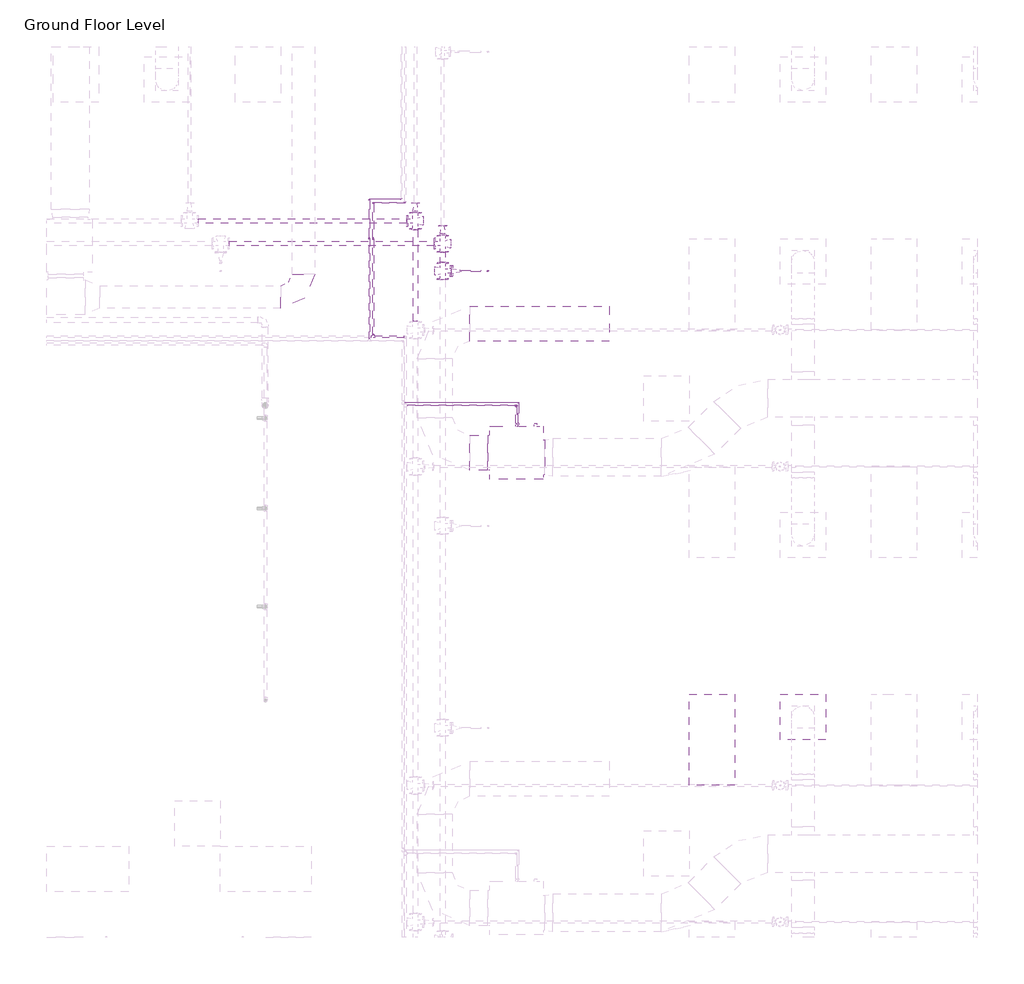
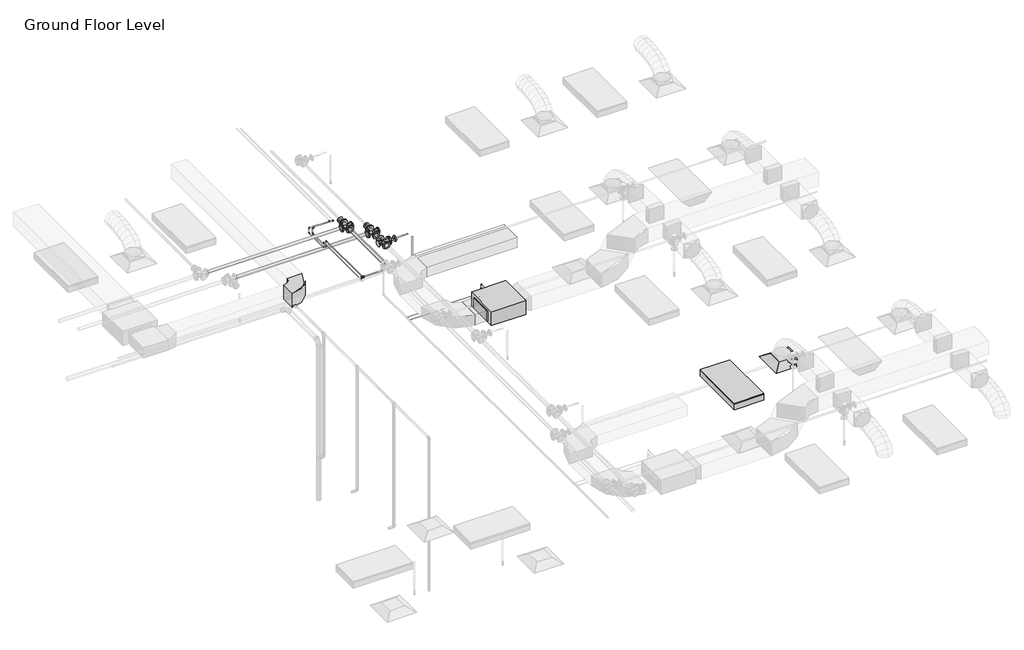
# One storey, part 67 of 74: 23 pipe segments, 22 pipe fittings, 2 duct segments, 1 air terminal, 1 duct fitting, 1 fire suppression terminal, 1 light fixture, 1 proxy.
"""IFC4 building model written with IfcOpenShell, lengths in millimetres."""

from ifc_helpers import new_model, si_unit, point, frame, frame_2d, origin, place, context, project, spatial, polyline, circle_curve, trimmed, segment, composite_curve, outline, extrude, transform, mapped, element, save
from components import m_return_diffuser_600_x_600_face_300_x_300_connection_ff221211, fcu_daikin_iu_bad131e0, m_rectangular_elbow_radius_1_w_618da153, m_sprinkler_pendent_15_mm_pendent_06fcbd8e, m_troffer_light_parabolic_rectangular1_0600x1200mm_4_lamp_86473d4a, m_elbow_generic_standard_a088f956, m_elbow_generic_standard_2a704253, m_reducer_flanged_cs_class_150_standard_9dfe9ec5, m_reducer_flanged_cs_class_150_standard_a7631c35, m_tee_generic_standard_bbfc025c, m_tee_round_base_flanged_cs_class_150_standard_dd767e04, m_transition_generic_standard_e9aec4dd

model = new_model("IFC4")

# Units and contexts
model_context = context("Model", 3, world=origin())
ifc_project = project(units=[si_unit("LENGTHUNIT", "METRE", prefix="MILLI")], contexts=[model_context])

# Site, building, storey
site = spatial("IfcSite", under=ifc_project)
building = spatial("IfcBuilding", under=site)
storey = spatial("IfcBuildingStorey", under=building, Name="Ground Floor Level", Elevation=900.0)

# Air terminal
placement = place(None, origin())
m_return_diffuser_600_x_600_face_300_x_300_connection_shape = m_return_diffuser_600_x_600_face_300_x_300_connection_ff221211(model_context)
element("IfcAirTerminal", 1, ObjectType="M_Supply Diffuser : 600 x 600 Face 300 x 300 Connection", at=placement, inside=storey, context=model_context, shape_type="MappedRepresentation", body=[
    mapped(m_return_diffuser_600_x_600_face_300_x_300_connection_shape, transform((10742.7672395, 8535.2153534, 3650.0), x_axis=(1.0, 0.0, 0.0), y_axis=(0.0, 1.0, 0.0), z_axis=(0.0, 0.0, 1.0))),
])

# Proxy
fcu_daikin_iu_shape = fcu_daikin_iu_bad131e0(model_context)
element("IfcBuildingElementProxy", 2, Name="FCU-DAIKIN IU : 4.5kW, 230V/50Hz/1Ph", ObjectType="FCU-DAIKIN IU : 4.5kW, 230V/50Hz/1Ph", at=placement, inside=storey, context=model_context, shape_type="MappedRepresentation", body=[
    mapped(fcu_daikin_iu_shape, transform((6968.8139492, 12019.6779527, 3934.0932729), x_axis=(0.0, 1.0, 0.0), y_axis=(-1.0, 0.0, 0.0), z_axis=(0.0, 0.0, 1.0))),
])

# Duct fitting
m_rectangular_elbow_radius_1_w_shape = m_rectangular_elbow_radius_1_w_618da153(model_context)
element("IfcDuctFitting", 3, ObjectType="M_Rectangular Elbow - Radius : 1 W", at=placement, inside=storey, context=model_context, shape_type="MappedRepresentation", body=[
    mapped(m_rectangular_elbow_radius_1_w_shape, transform((4162.7672395, 14069.8153534, 4075.2872564), x_axis=(1.0, 0.0, 0.0), y_axis=(0.0, 1.0, 0.0), z_axis=(0.0, 0.0, 1.0))),
])

# Duct segments
element("IfcDuctSegment", 4, ObjectType="Radius Elbows / Taps", at=placement, inside=storey, context=model_context, shape_type="SweptSolid", body=[
    extrude(outline(polyline([(6593.4139492, 12250.6154527), (6593.4139492, 11788.7404527), (6355.2889492, 11788.7404527), (6355.2889492, 12250.6154527), (6593.4139492, 12250.6154527)])), frame((0.0, 0.0, 3968.1432729), z_axis=(0.0, 0.0, 1.0), x_axis=(1.0, 0.0, 0.0)), (0.0, 0.0, 1.0), 214.3),
])
element("IfcDuctSegment", 5, ObjectType="Radius Elbows / Taps", at=placement, inside=storey, context=model_context, shape_type="SweptSolid", body=[
    extrude(outline(polyline([(6355.2889492, 13488.7408949), (6355.2889492, 13950.6158949), (8193.4139492, 13950.6158949), (8193.4139492, 13488.7408949), (6355.2889492, 13488.7408949)])), frame((0.0, 0.0, 3968.1432729), z_axis=(0.0, 0.0, 1.0), x_axis=(1.0, 0.0, 0.0)), (0.0, 0.0, 1.0), 214.3),
])

# Fire suppression terminal
m_sprinkler_pendent_15_mm_pendent_shape = m_sprinkler_pendent_15_mm_pendent_06fcbd8e(model_context)
element("IfcFireSuppressionTerminal", 6, ObjectType="M_Sprinkler - Pendent : 15 mm Pendent", at=placement, inside=storey, context=model_context, shape_type="MappedRepresentation", body=[
    mapped(m_sprinkler_pendent_15_mm_pendent_shape, transform((6592.5481019, 14412.7243649, 3650.0), x_axis=(1.0, 0.0, 0.0), y_axis=(0.0, 1.0, 0.0), z_axis=(0.0, 0.0, 1.0))),
])

# Light fixture
m_troffer_light_parabolic_rectangular1_0600x1200mm_4_lamp_shape = m_troffer_light_parabolic_rectangular1_0600x1200mm_4_lamp_86473d4a(model_context)
element("IfcLightFixture", 7, ObjectType="M_Troffer Light - Parabolic Rectangular1 : 0600x1200mm(4 Lamp) - 277V 2", at=placement, inside=storey, context=model_context, shape_type="MappedRepresentation", body=[
    mapped(m_troffer_light_parabolic_rectangular1_0600x1200mm_4_lamp_shape, transform((9483.3013074, 8253.9188549, 3650.0), x_axis=(0.0, 1.0, 0.0), y_axis=(-1.0, 0.0, 0.0), z_axis=(0.0, 0.0, 1.0))),
])

# Pipe fittings
m_elbow_generic_standard_shape = m_elbow_generic_standard_a088f956(model_context)
element("IfcPipeFitting", 8, ObjectType="M_Elbow - Generic : Standard", at=placement, inside=storey, context=model_context, shape_type="MappedRepresentation", body=[
    mapped(m_elbow_generic_standard_shape, transform((6968.8139492, 12641.4098545, 4034.0932729), x_axis=(0.0, 1.0, 0.0), y_axis=(0.0, 0.0, -1.0), z_axis=(-1.0, 0.0, 0.0))),
])
element("IfcPipeFitting", 9, ObjectType="M_Elbow - Generic : Standard", at=placement, inside=storey, context=model_context, shape_type="MappedRepresentation", body=[
    mapped(m_elbow_generic_standard_shape, transform((6968.8139492, 12641.4098545, 3851.8370709), x_axis=(0.0, 0.0, -1.0), y_axis=(-1.0, 0.0, 0.0), z_axis=(0.0, 1.0, 0.0))),
])
element("IfcPipeFitting", 10, ObjectType="M_Elbow - Generic : Standard", at=placement, inside=storey, context=model_context, shape_type="MappedRepresentation", body=[
    mapped(m_elbow_generic_standard_shape, transform((5079.6672395, 15310.9278534, 4380.0), x_axis=(-1.0, 0.0, 0.0), y_axis=(0.0, 0.0, -1.0), z_axis=(0.0, -1.0, 0.0))),
])
element("IfcPipeFitting", 11, ObjectType="M_Elbow - Generic : Standard", at=placement, inside=storey, context=model_context, shape_type="MappedRepresentation", body=[
    mapped(m_elbow_generic_standard_shape, transform((5079.6672395, 15310.9278534, 4250.0), x_axis=(0.0, 0.0, -1.0), y_axis=(0.0, -1.0, 0.0), z_axis=(-1.0, 0.0, 0.0))),
])
element("IfcPipeFitting", 12, ObjectType="M_Elbow - Generic : Standard", at=placement, inside=storey, context=model_context, shape_type="MappedRepresentation", body=[
    mapped(m_elbow_generic_standard_shape, transform((5079.6672395, 14839.2712401, 4250.0), x_axis=(0.0, -1.0, 0.0), y_axis=(0.0, 0.0, 1.0), z_axis=(-1.0, 0.0, 0.0))),
])
element("IfcPipeFitting", 13, ObjectType="M_Elbow - Generic : Standard", at=placement, inside=storey, context=model_context, shape_type="MappedRepresentation", body=[
    mapped(m_elbow_generic_standard_shape, transform((5079.6672395, 14839.2712401, 4380.0), x_axis=(0.0, 0.0, 1.0), y_axis=(0.0, -1.0, 0.0), z_axis=(1.0, 0.0, 0.0))),
])
element("IfcPipeFitting", 14, ObjectType="M_Elbow - Generic : Standard", at=placement, inside=storey, context=model_context, shape_type="MappedRepresentation", body=[
    mapped(m_elbow_generic_standard_shape, transform((5501.7675988, 15310.9278534, 4380.0), x_axis=(1.0, 0.0, 0.0), y_axis=(0.0, 1.0, 0.0), z_axis=(0.0, 0.0, 1.0))),
])
m_elbow_generic_standard_2_shape = m_elbow_generic_standard_2a704253(model_context)
element("IfcPipeFitting", 15, ObjectType="M_Elbow - Generic : Standard", at=placement, inside=storey, context=model_context, shape_type="MappedRepresentation", body=[
    mapped(m_elbow_generic_standard_2_shape, transform((5452.0810646, 15359.0778534, 4365.0), x_axis=(1.0, 0.0, 0.0), y_axis=(0.0, 1.0, 0.0), z_axis=(0.0, 0.0, 1.0))),
])
element("IfcPipeFitting", 16, ObjectType="M_Elbow - Generic : Standard", at=placement, inside=storey, context=model_context, shape_type="MappedRepresentation", body=[
    mapped(m_elbow_generic_standard_2_shape, transform((6993.8139492, 12681.5253374, 4084.8932729), x_axis=(0.0, 1.0, 0.0), y_axis=(0.0, 0.0, -1.0), z_axis=(-1.0, 0.0, 0.0))),
])
element("IfcPipeFitting", 17, ObjectType="M_Elbow - Generic : Standard", at=placement, inside=storey, context=model_context, shape_type="MappedRepresentation", body=[
    mapped(m_elbow_generic_standard_2_shape, transform((6993.8139492, 12681.5253374, 3894.9), x_axis=(0.0, 0.0, -1.0), y_axis=(-1.0, 0.0, 0.0), z_axis=(0.0, 1.0, 0.0))),
])
element("IfcPipeFitting", 18, ObjectType="M_Elbow - Generic : Standard", at=placement, inside=storey, context=model_context, shape_type="MappedRepresentation", body=[
    mapped(m_elbow_generic_standard_2_shape, transform((5029.9807053, 15359.0778534, 4365.0), x_axis=(-1.0, 0.0, 0.0), y_axis=(0.0, 0.0, -1.0), z_axis=(0.0, -1.0, 0.0))),
])
element("IfcPipeFitting", 19, ObjectType="M_Elbow - Generic : Standard", at=placement, inside=storey, context=model_context, shape_type="MappedRepresentation", body=[
    mapped(m_elbow_generic_standard_2_shape, transform((5029.9807053, 15359.0778534, 4250.0), x_axis=(0.0, 0.0, -1.0), y_axis=(0.0, -1.0, 0.0), z_axis=(-1.0, 0.0, 0.0))),
])
element("IfcPipeFitting", 20, ObjectType="M_Elbow - Generic : Standard", at=placement, inside=storey, context=model_context, shape_type="MappedRepresentation", body=[
    mapped(m_elbow_generic_standard_2_shape, transform((5029.9807053, 14842.4877441, 4250.0), x_axis=(0.0, -1.0, 0.0), y_axis=(0.0, 0.0, 1.0), z_axis=(-1.0, 0.0, 0.0))),
])
element("IfcPipeFitting", 21, ObjectType="M_Elbow - Generic : Standard", at=placement, inside=storey, context=model_context, shape_type="MappedRepresentation", body=[
    mapped(m_elbow_generic_standard_2_shape, transform((5029.9807053, 14842.4877441, 4365.0), x_axis=(0.0, 0.0, 1.0), y_axis=(0.0, -1.0, 0.0), z_axis=(1.0, 0.0, 0.0))),
])
m_reducer_flanged_cs_class_150_standard_shape = m_reducer_flanged_cs_class_150_standard_9dfe9ec5(model_context)
element("IfcPipeFitting", 22, ObjectType="M_Reducer - Flanged - CS - Class 150 : Standard", at=placement, inside=storey, context=model_context, shape_type="MappedRepresentation", body=[
    mapped(m_reducer_flanged_cs_class_150_standard_shape, transform((6111.057812, 14412.7243649, 4290.0), x_axis=(1.0, 0.0, 0.0), y_axis=(0.0, 0.0, -1.0), z_axis=(0.0, 1.0, 0.0))),
])
m_reducer_flanged_cs_class_150_standard_2_shape = m_reducer_flanged_cs_class_150_standard_a7631c35(model_context)
element("IfcPipeFitting", 23, ObjectType="M_Reducer - Flanged - CS - Class 150 : Standard", at=placement, inside=storey, context=model_context, shape_type="MappedRepresentation", body=[
    mapped(m_reducer_flanged_cs_class_150_standard_2_shape, transform((5997.057812, 14887.4681847, 4290.0), x_axis=(0.0, 1.0, 0.0), y_axis=(-1.0, 0.0, 0.0), z_axis=(0.0, 0.0, 1.0))),
])
element("IfcPipeFitting", 24, ObjectType="M_Reducer - Flanged - CS - Class 150 : Standard", at=placement, inside=storey, context=model_context, shape_type="MappedRepresentation", body=[
    mapped(m_reducer_flanged_cs_class_150_standard_2_shape, transform((5635.869498, 15187.2009828, 4360.0), x_axis=(0.0, 1.0, 0.0), y_axis=(-1.0, 0.0, 0.0), z_axis=(0.0, 0.0, 1.0))),
])
m_tee_generic_standard_shape = m_tee_generic_standard_bbfc025c(model_context)
element("IfcPipeFitting", 25, ObjectType="M_Tee - Generic : Standard", at=placement, inside=storey, context=model_context, shape_type="MappedRepresentation", body=[
    mapped(m_tee_generic_standard_shape, transform((5079.6672395, 13545.2153534, 4380.0), x_axis=(-1.0, 0.0, 0.0), y_axis=(0.0, -1.0, 0.0), z_axis=(0.0, 0.0, 1.0))),
])
m_tee_round_base_flanged_cs_class_150_standard_shape = m_tee_round_base_flanged_cs_class_150_standard_dd767e04(model_context)
element("IfcPipeFitting", 26, ObjectType="M_Tee Round Base - Flanged - CS - Class 150 : Standard", at=placement, inside=storey, context=model_context, shape_type="MappedRepresentation", body=[
    mapped(m_tee_round_base_flanged_cs_class_150_standard_shape, transform((5997.057812, 14773.4681847, 4290.0), x_axis=(0.0, -1.0, 0.0), y_axis=(1.0, 0.0, 0.0), z_axis=(0.0, 0.0, 1.0))),
])
element("IfcPipeFitting", 27, ObjectType="M_Tee Round Base - Flanged - CS - Class 150 : Standard", at=placement, inside=storey, context=model_context, shape_type="MappedRepresentation", body=[
    mapped(m_tee_round_base_flanged_cs_class_150_standard_shape, transform((5997.057812, 14412.7243649, 4290.0), x_axis=(0.0, 1.0, 0.0), y_axis=(-1.0, 0.0, 0.0), z_axis=(0.0, 0.0, 1.0))),
])
element("IfcPipeFitting", 28, ObjectType="M_Tee Round Base - Flanged - CS - Class 150 : Standard", at=placement, inside=storey, context=model_context, shape_type="MappedRepresentation", body=[
    mapped(m_tee_round_base_flanged_cs_class_150_standard_shape, transform((5635.869498, 15073.2009828, 4360.0), x_axis=(0.0, -1.0, 0.0), y_axis=(1.0, 0.0, 0.0), z_axis=(0.0, 0.0, 1.0))),
])
m_transition_generic_standard_shape = m_transition_generic_standard_e9aec4dd(model_context)
element("IfcPipeFitting", 29, ObjectType="M_Transition - Generic : Standard", at=placement, inside=storey, context=model_context, shape_type="MappedRepresentation", body=[
    mapped(m_transition_generic_standard_shape, transform((5079.6672395, 13570.6153534, 4380.0), x_axis=(0.0, 1.0, 0.0), y_axis=(-1.0, 0.0, 0.0), z_axis=(0.0, 0.0, 1.0))),
])

# Pipe segments
element("IfcPipeSegment", 30, ObjectType="Copper", at=placement, inside=storey, context=model_context, shape_type="SweptSolid", body=[
    extrude(outline(composite_curve([segment(trimmed(circle_curve(frame_2d((15359.0778534, 4365.0)), 3.35), [point((15355.7278534, 4365.0))], [point((15359.0778534, 4368.35))], False, "CARTESIAN"), True, "CONTINUOUS"), segment(trimmed(circle_curve(frame_2d((15359.0778534, 4365.0)), 3.35), [point((15359.0778534, 4368.35))], [point((15362.4278534, 4365.0))], False, "CARTESIAN"), True, "CONTINUOUS"), segment(trimmed(circle_curve(frame_2d((15359.0778534, 4365.0)), 3.35), [point((15362.4278534, 4365.0))], [point((15359.0778534, 4361.65))], False, "CARTESIAN"), True, "CONTINUOUS"), segment(trimmed(circle_curve(frame_2d((15359.0778534, 4365.0)), 3.35), [point((15359.0778534, 4361.65))], [point((15355.7278534, 4365.0))], False, "CARTESIAN"), True, "CONTINUOUS")], self_intersect=False)), frame((5041.1182053, 0.0, 0.0), z_axis=(1.0, 0.0, 0.0), x_axis=(0.0, 1.0, 0.0)), (0.0, 0.0, 1.0), 399.8253593),
])
element("IfcPipeSegment", 31, ObjectType="Copper", at=placement, inside=storey, context=model_context, shape_type="SweptSolid", body=[
    extrude(outline(composite_curve([segment(trimmed(circle_curve(frame_2d((15310.9278534, 4380.0)), 6.5), [point((15304.4278534, 4380.0))], [point((15310.9278534, 4386.5))], False, "CARTESIAN"), True, "CONTINUOUS"), segment(trimmed(circle_curve(frame_2d((15310.9278534, 4380.0)), 6.5), [point((15310.9278534, 4386.5))], [point((15317.4278534, 4380.0))], False, "CARTESIAN"), True, "CONTINUOUS"), segment(trimmed(circle_curve(frame_2d((15310.9278534, 4380.0)), 6.5), [point((15317.4278534, 4380.0))], [point((15310.9278534, 4373.5))], False, "CARTESIAN"), True, "CONTINUOUS"), segment(trimmed(circle_curve(frame_2d((15310.9278534, 4380.0)), 6.5), [point((15310.9278534, 4373.5))], [point((15304.4278534, 4380.0))], False, "CARTESIAN"), True, "CONTINUOUS")], self_intersect=False)), frame((5093.9547395, 0.0, 0.0), z_axis=(1.0, 0.0, 0.0), x_axis=(0.0, 1.0, 0.0)), (0.0, 0.0, 1.0), 393.5253593),
])
element("IfcPipeSegment", 32, ObjectType="Copper", at=placement, inside=storey, context=model_context, shape_type="SweptSolid", body=[
    extrude(outline(composite_curve([segment(trimmed(circle_curve(frame_2d((12681.5253374, 3894.9)), 3.35), [point((12684.8753374, 3894.9))], [point((12681.5253374, 3891.55))], False, "CARTESIAN"), True, "CONTINUOUS"), segment(trimmed(circle_curve(frame_2d((12681.5253374, 3894.9)), 3.35), [point((12681.5253374, 3891.55))], [point((12678.1753374, 3894.9))], False, "CARTESIAN"), True, "CONTINUOUS"), segment(trimmed(circle_curve(frame_2d((12681.5253374, 3894.9)), 3.35), [point((12678.1753374, 3894.9))], [point((12681.5253374, 3898.25))], False, "CARTESIAN"), True, "CONTINUOUS"), segment(trimmed(circle_curve(frame_2d((12681.5253374, 3894.9)), 3.35), [point((12681.5253374, 3898.25))], [point((12684.8753374, 3894.9))], False, "CARTESIAN"), True, "CONTINUOUS")], self_intersect=False)), frame((5499.1932053, 0.0, 0.0), z_axis=(1.0, 0.0, 0.0), x_axis=(0.0, 1.0, 0.0)), (0.0, 0.0, 1.0), 1483.483244),
])
element("IfcPipeSegment", 33, ObjectType="Copper", at=placement, inside=storey, context=model_context, shape_type="SweptSolid", body=[
    extrude(outline(composite_curve([segment(trimmed(circle_curve(frame_2d((12641.4098545, 3851.8370709)), 6.5), [point((12647.9098545, 3851.8370709))], [point((12641.4098545, 3845.3370709))], False, "CARTESIAN"), True, "CONTINUOUS"), segment(trimmed(circle_curve(frame_2d((12641.4098545, 3851.8370709)), 6.5), [point((12641.4098545, 3845.3370709))], [point((12634.9098545, 3851.8370709))], False, "CARTESIAN"), True, "CONTINUOUS"), segment(trimmed(circle_curve(frame_2d((12641.4098545, 3851.8370709)), 6.5), [point((12634.9098545, 3851.8370709))], [point((12641.4098545, 3858.3370709))], False, "CARTESIAN"), True, "CONTINUOUS"), segment(trimmed(circle_curve(frame_2d((12641.4098545, 3851.8370709)), 6.5), [point((12641.4098545, 3858.3370709))], [point((12647.9098545, 3851.8370709))], False, "CARTESIAN"), True, "CONTINUOUS")], self_intersect=False)), frame((5536.8172395, 0.0, 0.0), z_axis=(1.0, 0.0, 0.0), x_axis=(0.0, 1.0, 0.0)), (0.0, 0.0, 1.0), 1417.7092098),
])
element("IfcPipeSegment", 34, ObjectType="Copper", at=placement, inside=storey, context=model_context, shape_type="SweptSolid", body=[
    extrude(outline(composite_curve([segment(trimmed(circle_curve(frame_2d((4034.0932729, 6968.8139492)), 6.5), [point((4034.0932729, 6975.3139492))], [point((4040.5932729, 6968.8139492))], False, "CARTESIAN"), True, "CONTINUOUS"), segment(trimmed(circle_curve(frame_2d((4034.0932729, 6968.8139492)), 6.5), [point((4040.5932729, 6968.8139492))], [point((4034.0932729, 6962.3139492))], False, "CARTESIAN"), True, "CONTINUOUS"), segment(trimmed(circle_curve(frame_2d((4034.0932729, 6968.8139492)), 6.5), [point((4034.0932729, 6962.3139492))], [point((4027.5932729, 6968.8139492))], False, "CARTESIAN"), True, "CONTINUOUS"), segment(trimmed(circle_curve(frame_2d((4034.0932729, 6968.8139492)), 6.5), [point((4027.5932729, 6968.8139492))], [point((4034.0932729, 6975.3139492))], False, "CARTESIAN"), True, "CONTINUOUS")], self_intersect=False)), frame((0.0, 12407.7779527, 0.0), z_axis=(0.0, 1.0, 0.0), x_axis=(0.0, 0.0, 1.0)), (0.0, 0.0, 1.0), 219.3444019),
])
element("IfcPipeSegment", 35, ObjectType="Copper", at=placement, inside=storey, context=model_context, shape_type="SweptSolid", body=[
    extrude(outline(composite_curve([segment(trimmed(circle_curve(frame_2d((4084.8932729, 6993.8139492)), 3.35), [point((4084.8932729, 6997.1639492))], [point((4088.2432729, 6993.8139492))], False, "CARTESIAN"), True, "CONTINUOUS"), segment(trimmed(circle_curve(frame_2d((4084.8932729, 6993.8139492)), 3.35), [point((4088.2432729, 6993.8139492))], [point((4084.8932729, 6990.4639492))], False, "CARTESIAN"), True, "CONTINUOUS"), segment(trimmed(circle_curve(frame_2d((4084.8932729, 6993.8139492)), 3.35), [point((4084.8932729, 6990.4639492))], [point((4081.5432729, 6993.8139492))], False, "CARTESIAN"), True, "CONTINUOUS"), segment(trimmed(circle_curve(frame_2d((4084.8932729, 6993.8139492)), 3.35), [point((4081.5432729, 6993.8139492))], [point((4084.8932729, 6997.1639492))], False, "CARTESIAN"), True, "CONTINUOUS")], self_intersect=False)), frame((0.0, 12407.7779527, 0.0), z_axis=(0.0, 1.0, 0.0), x_axis=(0.0, 0.0, 1.0)), (0.0, 0.0, 1.0), 262.6098848),
])
element("IfcPipeSegment", 36, ObjectType="Copper", at=placement, inside=storey, context=model_context, shape_type="SweptSolid", body=[
    extrude(outline(composite_curve([segment(trimmed(circle_curve(frame_2d((6968.8139492, 12641.4098545)), 6.5), [point((6975.3139492, 12641.4098545))], [point((6968.8139492, 12634.9098545))], False, "CARTESIAN"), True, "CONTINUOUS"), segment(trimmed(circle_curve(frame_2d((6968.8139492, 12641.4098545)), 6.5), [point((6968.8139492, 12634.9098545))], [point((6962.3139492, 12641.4098545))], False, "CARTESIAN"), True, "CONTINUOUS"), segment(trimmed(circle_curve(frame_2d((6968.8139492, 12641.4098545)), 6.5), [point((6962.3139492, 12641.4098545))], [point((6968.8139492, 12647.9098545))], False, "CARTESIAN"), True, "CONTINUOUS"), segment(trimmed(circle_curve(frame_2d((6968.8139492, 12641.4098545)), 6.5), [point((6968.8139492, 12647.9098545))], [point((6975.3139492, 12641.4098545))], False, "CARTESIAN"), True, "CONTINUOUS")], self_intersect=False)), frame((0.0, 0.0, 3866.1245709), z_axis=(0.0, 0.0, 1.0), x_axis=(1.0, 0.0, 0.0)), (0.0, 0.0, 1.0), 153.6812021),
])
element("IfcPipeSegment", 37, ObjectType="Copper", at=placement, inside=storey, context=model_context, shape_type="SweptSolid", body=[
    extrude(outline(composite_curve([segment(trimmed(circle_curve(frame_2d((6993.8139492, 12681.5253374)), 3.35), [point((6997.1639492, 12681.5253374))], [point((6993.8139492, 12678.1753374))], False, "CARTESIAN"), True, "CONTINUOUS"), segment(trimmed(circle_curve(frame_2d((6993.8139492, 12681.5253374)), 3.35), [point((6993.8139492, 12678.1753374))], [point((6990.4639492, 12681.5253374))], False, "CARTESIAN"), True, "CONTINUOUS"), segment(trimmed(circle_curve(frame_2d((6993.8139492, 12681.5253374)), 3.35), [point((6990.4639492, 12681.5253374))], [point((6993.8139492, 12684.8753374))], False, "CARTESIAN"), True, "CONTINUOUS"), segment(trimmed(circle_curve(frame_2d((6993.8139492, 12681.5253374)), 3.35), [point((6993.8139492, 12684.8753374))], [point((6997.1639492, 12681.5253374))], False, "CARTESIAN"), True, "CONTINUOUS")], self_intersect=False)), frame((0.0, 0.0, 3906.0375), z_axis=(0.0, 0.0, 1.0), x_axis=(1.0, 0.0, 0.0)), (0.0, 0.0, 1.0), 167.7182729),
])
element("IfcPipeSegment", 38, ObjectType="Copper", at=placement, inside=storey, context=model_context, shape_type="SweptSolid", body=[
    extrude(outline(composite_curve([segment(trimmed(circle_curve(frame_2d((4380.0, 5079.6672395)), 6.5), [point((4380.0, 5086.1672395))], [point((4386.5, 5079.6672395))], False, "CARTESIAN"), True, "CONTINUOUS"), segment(trimmed(circle_curve(frame_2d((4380.0, 5079.6672395)), 6.5), [point((4386.5, 5079.6672395))], [point((4380.0, 5073.1672395))], False, "CARTESIAN"), True, "CONTINUOUS"), segment(trimmed(circle_curve(frame_2d((4380.0, 5079.6672395)), 6.5), [point((4380.0, 5073.1672395))], [point((4373.5, 5079.6672395))], False, "CARTESIAN"), True, "CONTINUOUS"), segment(trimmed(circle_curve(frame_2d((4380.0, 5079.6672395)), 6.5), [point((4373.5, 5079.6672395))], [point((4380.0, 5086.1672395))], False, "CARTESIAN"), True, "CONTINUOUS")], self_intersect=False)), frame((0.0, 13576.9653534, 0.0), z_axis=(0.0, 1.0, 0.0), x_axis=(0.0, 0.0, 1.0)), (0.0, 0.0, 1.0), 1248.0183867),
])
element("IfcPipeSegment", 39, ObjectType="Copper", at=placement, inside=storey, context=model_context, shape_type="SweptSolid", body=[
    extrude(outline(composite_curve([segment(trimmed(circle_curve(frame_2d((4250.0, 5079.6672395)), 6.5), [point((4250.0, 5073.1672395))], [point((4243.5, 5079.6672395))], False, "CARTESIAN"), True, "CONTINUOUS"), segment(trimmed(circle_curve(frame_2d((4250.0, 5079.6672395)), 6.5), [point((4243.5, 5079.6672395))], [point((4250.0, 5086.1672395))], False, "CARTESIAN"), True, "CONTINUOUS"), segment(trimmed(circle_curve(frame_2d((4250.0, 5079.6672395)), 6.5), [point((4250.0, 5086.1672395))], [point((4256.5, 5079.6672395))], False, "CARTESIAN"), True, "CONTINUOUS"), segment(trimmed(circle_curve(frame_2d((4250.0, 5079.6672395)), 6.5), [point((4256.5, 5079.6672395))], [point((4250.0, 5073.1672395))], False, "CARTESIAN"), True, "CONTINUOUS")], self_intersect=False)), frame((0.0, 14853.5587401, 0.0), z_axis=(0.0, 1.0, 0.0), x_axis=(0.0, 0.0, 1.0)), (0.0, 0.0, 1.0), 443.0816133),
])
element("IfcPipeSegment", 40, ObjectType="Copper", at=placement, inside=storey, context=model_context, shape_type="SweptSolid", body=[
    extrude(outline(composite_curve([segment(trimmed(circle_curve(frame_2d((4250.0, 5029.9807053)), 3.35), [point((4250.0, 5026.6307053))], [point((4246.65, 5029.9807053))], False, "CARTESIAN"), True, "CONTINUOUS"), segment(trimmed(circle_curve(frame_2d((4250.0, 5029.9807053)), 3.35), [point((4246.65, 5029.9807053))], [point((4250.0, 5033.3307053))], False, "CARTESIAN"), True, "CONTINUOUS"), segment(trimmed(circle_curve(frame_2d((4250.0, 5029.9807053)), 3.35), [point((4250.0, 5033.3307053))], [point((4253.35, 5029.9807053))], False, "CARTESIAN"), True, "CONTINUOUS"), segment(trimmed(circle_curve(frame_2d((4250.0, 5029.9807053)), 3.35), [point((4253.35, 5029.9807053))], [point((4250.0, 5026.6307053))], False, "CARTESIAN"), True, "CONTINUOUS")], self_intersect=False)), frame((0.0, 14853.6252441, 0.0), z_axis=(0.0, 1.0, 0.0), x_axis=(0.0, 0.0, 1.0)), (0.0, 0.0, 1.0), 494.3151093),
])
element("IfcPipeSegment", 41, ObjectType="Copper", at=placement, inside=storey, context=model_context, shape_type="SweptSolid", body=[
    extrude(outline(composite_curve([segment(trimmed(circle_curve(frame_2d((4365.0, 5029.9807053)), 3.35), [point((4365.0, 5033.3307053))], [point((4368.35, 5029.9807053))], False, "CARTESIAN"), True, "CONTINUOUS"), segment(trimmed(circle_curve(frame_2d((4365.0, 5029.9807053)), 3.35), [point((4368.35, 5029.9807053))], [point((4365.0, 5026.6307053))], False, "CARTESIAN"), True, "CONTINUOUS"), segment(trimmed(circle_curve(frame_2d((4365.0, 5029.9807053)), 3.35), [point((4365.0, 5026.6307053))], [point((4361.65, 5029.9807053))], False, "CARTESIAN"), True, "CONTINUOUS"), segment(trimmed(circle_curve(frame_2d((4365.0, 5029.9807053)), 3.35), [point((4361.65, 5029.9807053))], [point((4365.0, 5033.3307053))], False, "CARTESIAN"), True, "CONTINUOUS")], self_intersect=False)), frame((0.0, 13521.0060138, 0.0), z_axis=(0.0, 1.0, 0.0), x_axis=(0.0, 0.0, 1.0)), (0.0, 0.0, 1.0), 1310.3442303),
])
element("IfcPipeSegment", 42, ObjectType="Copper", at=placement, inside=storey, context=model_context, shape_type="SweptSolid", body=[
    extrude(outline(composite_curve([segment(trimmed(circle_curve(frame_2d((5079.6672395, 15310.9278534)), 6.5), [point((5086.1672395, 15310.9278534))], [point((5079.6672395, 15304.4278534))], False, "CARTESIAN"), True, "CONTINUOUS"), segment(trimmed(circle_curve(frame_2d((5079.6672395, 15310.9278534)), 6.5), [point((5079.6672395, 15304.4278534))], [point((5073.1672395, 15310.9278534))], False, "CARTESIAN"), True, "CONTINUOUS"), segment(trimmed(circle_curve(frame_2d((5079.6672395, 15310.9278534)), 6.5), [point((5073.1672395, 15310.9278534))], [point((5079.6672395, 15317.4278534))], False, "CARTESIAN"), True, "CONTINUOUS"), segment(trimmed(circle_curve(frame_2d((5079.6672395, 15310.9278534)), 6.5), [point((5079.6672395, 15317.4278534))], [point((5086.1672395, 15310.9278534))], False, "CARTESIAN"), True, "CONTINUOUS")], self_intersect=False)), frame((0.0, 0.0, 4264.2875), z_axis=(0.0, 0.0, 1.0), x_axis=(1.0, 0.0, 0.0)), (0.0, 0.0, 1.0), 101.425),
])
element("IfcPipeSegment", 43, ObjectType="Copper", at=placement, inside=storey, context=model_context, shape_type="SweptSolid", body=[
    extrude(outline(composite_curve([segment(trimmed(circle_curve(frame_2d((5029.9807053, 15359.0778534)), 3.35), [point((5033.3307053, 15359.0778534))], [point((5029.9807053, 15355.7278534))], False, "CARTESIAN"), True, "CONTINUOUS"), segment(trimmed(circle_curve(frame_2d((5029.9807053, 15359.0778534)), 3.35), [point((5029.9807053, 15355.7278534))], [point((5026.6307053, 15359.0778534))], False, "CARTESIAN"), True, "CONTINUOUS"), segment(trimmed(circle_curve(frame_2d((5029.9807053, 15359.0778534)), 3.35), [point((5026.6307053, 15359.0778534))], [point((5029.9807053, 15362.4278534))], False, "CARTESIAN"), True, "CONTINUOUS"), segment(trimmed(circle_curve(frame_2d((5029.9807053, 15359.0778534)), 3.35), [point((5029.9807053, 15362.4278534))], [point((5033.3307053, 15359.0778534))], False, "CARTESIAN"), True, "CONTINUOUS")], self_intersect=False)), frame((0.0, 0.0, 4261.1375), z_axis=(0.0, 0.0, 1.0), x_axis=(1.0, 0.0, 0.0)), (0.0, 0.0, 1.0), 92.725),
])
element("IfcPipeSegment", 44, ObjectType="Copper", at=placement, inside=storey, context=model_context, shape_type="SweptSolid", body=[
    extrude(outline(composite_curve([segment(trimmed(circle_curve(frame_2d((5029.9807053, 14842.4877441)), 3.35), [point((5026.6307053, 14842.4877441))], [point((5029.9807053, 14845.8377441))], False, "CARTESIAN"), True, "CONTINUOUS"), segment(trimmed(circle_curve(frame_2d((5029.9807053, 14842.4877441)), 3.35), [point((5029.9807053, 14845.8377441))], [point((5033.3307053, 14842.4877441))], False, "CARTESIAN"), True, "CONTINUOUS"), segment(trimmed(circle_curve(frame_2d((5029.9807053, 14842.4877441)), 3.35), [point((5033.3307053, 14842.4877441))], [point((5029.9807053, 14839.1377441))], False, "CARTESIAN"), True, "CONTINUOUS"), segment(trimmed(circle_curve(frame_2d((5029.9807053, 14842.4877441)), 3.35), [point((5029.9807053, 14839.1377441))], [point((5026.6307053, 14842.4877441))], False, "CARTESIAN"), True, "CONTINUOUS")], self_intersect=False)), frame((0.0, 0.0, 4261.1375), z_axis=(0.0, 0.0, 1.0), x_axis=(1.0, 0.0, 0.0)), (0.0, 0.0, 1.0), 92.725),
])
element("IfcPipeSegment", 45, ObjectType="Copper", at=placement, inside=storey, context=model_context, shape_type="SweptSolid", body=[
    extrude(outline(composite_curve([segment(trimmed(circle_curve(frame_2d((13545.2153534, 4380.0)), 11.5), [point((13533.7153534, 4380.0))], [point((13545.2153534, 4391.5))], False, "CARTESIAN"), True, "CONTINUOUS"), segment(trimmed(circle_curve(frame_2d((13545.2153534, 4380.0)), 11.5), [point((13545.2153534, 4391.5))], [point((13556.7153534, 4380.0))], False, "CARTESIAN"), True, "CONTINUOUS"), segment(trimmed(circle_curve(frame_2d((13545.2153534, 4380.0)), 11.5), [point((13556.7153534, 4380.0))], [point((13545.2153534, 4368.5))], False, "CARTESIAN"), True, "CONTINUOUS"), segment(trimmed(circle_curve(frame_2d((13545.2153534, 4380.0)), 11.5), [point((13545.2153534, 4368.5))], [point((13533.7153534, 4380.0))], False, "CARTESIAN"), True, "CONTINUOUS")], self_intersect=False)), frame((5105.0672395, 0.0, 0.0), z_axis=(1.0, 0.0, 0.0), x_axis=(0.0, 1.0, 0.0)), (0.0, 0.0, 1.0), 380.95),
])
element("IfcPipeSegment", 46, ObjectType="Copper", at=placement, inside=storey, context=model_context, shape_type="SweptSolid", body=[
    extrude(outline(composite_curve([segment(trimmed(circle_curve(frame_2d((5079.6672395, 14839.2712401)), 6.5), [point((5073.1672395, 14839.2712401))], [point((5079.6672395, 14845.7712401))], False, "CARTESIAN"), True, "CONTINUOUS"), segment(trimmed(circle_curve(frame_2d((5079.6672395, 14839.2712401)), 6.5), [point((5079.6672395, 14845.7712401))], [point((5086.1672395, 14839.2712401))], False, "CARTESIAN"), True, "CONTINUOUS"), segment(trimmed(circle_curve(frame_2d((5079.6672395, 14839.2712401)), 6.5), [point((5086.1672395, 14839.2712401))], [point((5079.6672395, 14832.7712401))], False, "CARTESIAN"), True, "CONTINUOUS"), segment(trimmed(circle_curve(frame_2d((5079.6672395, 14839.2712401)), 6.5), [point((5079.6672395, 14832.7712401))], [point((5073.1672395, 14839.2712401))], False, "CARTESIAN"), True, "CONTINUOUS")], self_intersect=False)), frame((0.0, 0.0, 4264.2875), z_axis=(0.0, 0.0, 1.0), x_axis=(1.0, 0.0, 0.0)), (0.0, 0.0, 1.0), 101.425),
])
element("IfcPipeSegment", 47, ObjectType="Steel flanged", at=placement, inside=storey, context=model_context, shape_type="SweptSolid", body=[
    extrude(outline(composite_curve([segment(trimmed(circle_curve(frame_2d((14773.4681847, 4290.0)), 30.1625), [point((14743.3056847, 4290.0))], [point((14773.4681847, 4320.1625))], False, "CARTESIAN"), True, "CONTINUOUS"), segment(trimmed(circle_curve(frame_2d((14773.4681847, 4290.0)), 30.1625), [point((14773.4681847, 4320.1625))], [point((14803.6306847, 4290.0))], False, "CARTESIAN"), True, "CONTINUOUS"), segment(trimmed(circle_curve(frame_2d((14773.4681847, 4290.0)), 30.1625), [point((14803.6306847, 4290.0))], [point((14773.4681847, 4259.8375))], False, "CARTESIAN"), True, "CONTINUOUS"), segment(trimmed(circle_curve(frame_2d((14773.4681847, 4290.0)), 30.1625), [point((14773.4681847, 4259.8375))], [point((14743.3056847, 4290.0))], False, "CARTESIAN"), True, "CONTINUOUS")], self_intersect=False)), frame((3185.8868905, 0.0, 0.0), z_axis=(1.0, 0.0, 0.0), x_axis=(0.0, 1.0, 0.0)), (0.0, 0.0, 1.0), 2697.1709215),
])
element("IfcPipeSegment", 48, ObjectType="Steel flanged", at=placement, inside=storey, context=model_context, shape_type="SweptSolid", body=[
    extrude(outline(composite_curve([segment(trimmed(circle_curve(frame_2d((6592.5481019, 14412.7243649)), 10.668), [point((6581.8801019, 14412.7243649))], [point((6592.5481019, 14423.3923649))], False, "CARTESIAN"), True, "CONTINUOUS"), segment(trimmed(circle_curve(frame_2d((6592.5481019, 14412.7243649)), 10.668), [point((6592.5481019, 14423.3923649))], [point((6603.2161019, 14412.7243649))], False, "CARTESIAN"), True, "CONTINUOUS"), segment(trimmed(circle_curve(frame_2d((6592.5481019, 14412.7243649)), 10.668), [point((6603.2161019, 14412.7243649))], [point((6592.5481019, 14402.0563649))], False, "CARTESIAN"), True, "CONTINUOUS"), segment(trimmed(circle_curve(frame_2d((6592.5481019, 14412.7243649)), 10.668), [point((6592.5481019, 14402.0563649))], [point((6581.8801019, 14412.7243649))], False, "CARTESIAN"), True, "CONTINUOUS")], self_intersect=False)), frame((0.0, 0.0, 3650.0), z_axis=(0.0, 0.0, 1.0), x_axis=(1.0, 0.0, 0.0)), (0.0, 0.0, 1.0), 546.9914062),
])
element("IfcPipeSegment", 49, ObjectType="Steel flanged", at=placement, inside=storey, context=model_context, shape_type="SweptSolid", body=[
    extrude(outline(composite_curve([segment(trimmed(circle_curve(frame_2d((14412.7243649, 4290.0)), 10.668), [point((14423.3923649, 4290.0))], [point((14412.7243649, 4279.332))], False, "CARTESIAN"), True, "CONTINUOUS"), segment(trimmed(circle_curve(frame_2d((14412.7243649, 4290.0)), 10.668), [point((14412.7243649, 4279.332))], [point((14402.0563649, 4290.0))], False, "CARTESIAN"), True, "CONTINUOUS"), segment(trimmed(circle_curve(frame_2d((14412.7243649, 4290.0)), 10.668), [point((14402.0563649, 4290.0))], [point((14412.7243649, 4300.668))], False, "CARTESIAN"), True, "CONTINUOUS"), segment(trimmed(circle_curve(frame_2d((14412.7243649, 4290.0)), 10.668), [point((14412.7243649, 4300.668))], [point((14423.3923649, 4290.0))], False, "CARTESIAN"), True, "CONTINUOUS")], self_intersect=False)), frame((6238.057812, 0.0, 0.0), z_axis=(1.0, 0.0, 0.0), x_axis=(0.0, 1.0, 0.0)), (0.0, 0.0, 1.0), 261.4816962),
])
element("IfcPipeSegment", 50, ObjectType="Steel flanged", at=placement, inside=storey, context=model_context, shape_type="SweptSolid", body=[
    extrude(outline(composite_curve([segment(trimmed(circle_curve(frame_2d((4290.0, 5997.057812)), 30.1625), [point((4290.0, 5966.895312))], [point((4259.8375, 5997.057812))], False, "CARTESIAN"), True, "CONTINUOUS"), segment(trimmed(circle_curve(frame_2d((4290.0, 5997.057812)), 30.1625), [point((4259.8375, 5997.057812))], [point((4290.0, 6027.220312))], False, "CARTESIAN"), True, "CONTINUOUS"), segment(trimmed(circle_curve(frame_2d((4290.0, 5997.057812)), 30.1625), [point((4290.0, 6027.220312))], [point((4320.1625, 5997.057812))], False, "CARTESIAN"), True, "CONTINUOUS"), segment(trimmed(circle_curve(frame_2d((4290.0, 5997.057812)), 30.1625), [point((4320.1625, 5997.057812))], [point((4290.0, 5966.895312))], False, "CARTESIAN"), True, "CONTINUOUS")], self_intersect=False)), frame((0.0, 14526.7243649, 0.0), z_axis=(0.0, 1.0, 0.0), x_axis=(0.0, 0.0, 1.0)), (0.0, 0.0, 1.0), 132.7438199),
])
element("IfcPipeSegment", 51, ObjectType="Steel flanged", at=placement, inside=storey, context=model_context, shape_type="SweptSolid", body=[
    extrude(outline(composite_curve([segment(trimmed(circle_curve(frame_2d((15073.2009828, 4360.0)), 30.1625), [point((15043.0384828, 4360.0))], [point((15073.2009828, 4390.1625))], False, "CARTESIAN"), True, "CONTINUOUS"), segment(trimmed(circle_curve(frame_2d((15073.2009828, 4360.0)), 30.1625), [point((15073.2009828, 4390.1625))], [point((15103.3634828, 4360.0))], False, "CARTESIAN"), True, "CONTINUOUS"), segment(trimmed(circle_curve(frame_2d((15073.2009828, 4360.0)), 30.1625), [point((15103.3634828, 4360.0))], [point((15073.2009828, 4329.8375))], False, "CARTESIAN"), True, "CONTINUOUS"), segment(trimmed(circle_curve(frame_2d((15073.2009828, 4360.0)), 30.1625), [point((15073.2009828, 4329.8375))], [point((15043.0384828, 4360.0))], False, "CARTESIAN"), True, "CONTINUOUS")], self_intersect=False)), frame((2776.7672395, 0.0, 0.0), z_axis=(1.0, 0.0, 0.0), x_axis=(0.0, 1.0, 0.0)), (0.0, 0.0, 1.0), 2745.1022585),
])
element("IfcPipeSegment", 52, ObjectType="Steel flanged", at=placement, inside=storey, context=model_context, shape_type="SweptSolid", body=[
    extrude(outline(composite_curve([segment(trimmed(circle_curve(frame_2d((4360.0, 5635.869498)), 30.1625), [point((4360.0, 5605.706998))], [point((4329.8375, 5635.869498))], False, "CARTESIAN"), True, "CONTINUOUS"), segment(trimmed(circle_curve(frame_2d((4360.0, 5635.869498)), 30.1625), [point((4329.8375, 5635.869498))], [point((4360.0, 5666.031998))], False, "CARTESIAN"), True, "CONTINUOUS"), segment(trimmed(circle_curve(frame_2d((4360.0, 5635.869498)), 30.1625), [point((4360.0, 5666.031998))], [point((4390.1625, 5635.869498))], False, "CARTESIAN"), True, "CONTINUOUS"), segment(trimmed(circle_curve(frame_2d((4360.0, 5635.869498)), 30.1625), [point((4390.1625, 5635.869498))], [point((4360.0, 5605.706998))], False, "CARTESIAN"), True, "CONTINUOUS")], self_intersect=False)), frame((0.0, 13749.2153534, 0.0), z_axis=(0.0, 1.0, 0.0), x_axis=(0.0, 0.0, 1.0)), (0.0, 0.0, 1.0), 1209.9856294),
])

save(model, "model.ifc")
